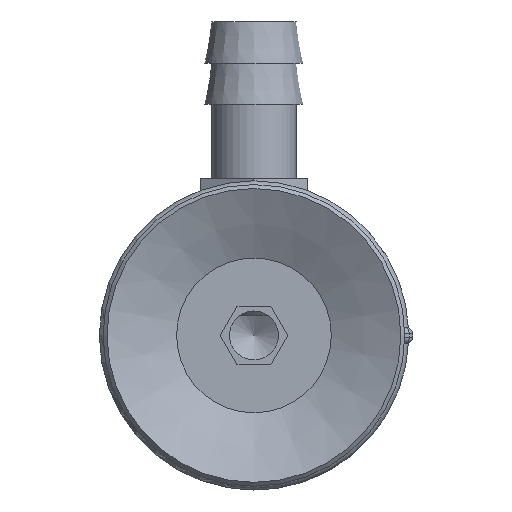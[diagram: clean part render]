
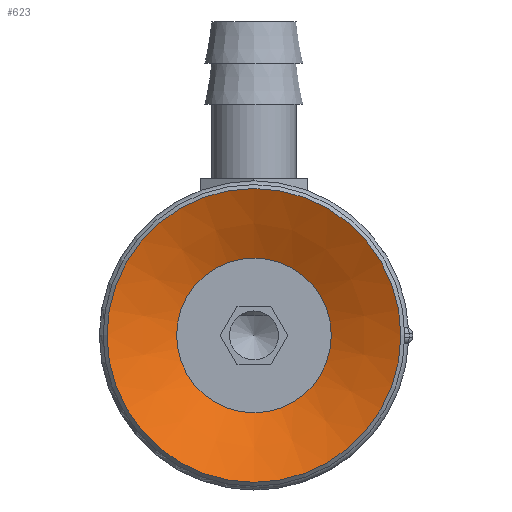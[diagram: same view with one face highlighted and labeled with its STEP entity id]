
A CAD part, front view. The second image highlights one B-rep face of the part: STEP entity #623.
In plain terms, the highlighted conical face has half-angle 64 degrees and reference radius 3.95 mm.
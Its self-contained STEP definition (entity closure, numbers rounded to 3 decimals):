
#623=ADVANCED_FACE('',(#933,#934),#935,.F.);
#933=FACE_BOUND('',#1355,.T.);
#934=FACE_OUTER_BOUND('',#1356,.T.);
#935=CONICAL_SURFACE('',#1357,3.95,1.117);
#1355=EDGE_LOOP('',(#2313));
#1356=EDGE_LOOP('',(#2314));
#1357=AXIS2_PLACEMENT_3D('',#2315,#2316,#2317);
#2313=ORIENTED_EDGE('',*,*,#2827,.F.);
#2314=ORIENTED_EDGE('',*,*,#2828,.T.);
#2315=CARTESIAN_POINT('',(0.0,-29.404,-47.168));
#2316=DIRECTION('',(-0.0,0.,1.0));
#2317=DIRECTION('',(0.0,-1.0,0.));
#2827=EDGE_CURVE('',#3277,#3277,#3278,.T.);
#2828=EDGE_CURVE('',#3279,#3279,#3280,.T.);
#3277=VERTEX_POINT('',#4377);
#3278=CIRCLE('',#4378,3.95);
#3279=VERTEX_POINT('',#4379);
#3280=CIRCLE('',#4380,7.5);
#4377=CARTESIAN_POINT('',(0.0,-33.354,-47.168));
#4378=AXIS2_PLACEMENT_3D('',#4856,#4857,#4858);
#4379=CARTESIAN_POINT('',(0.0,-36.904,-45.437));
#4380=AXIS2_PLACEMENT_3D('',#4859,#4860,#4861);
#4856=CARTESIAN_POINT('',(0.0,-29.404,-47.168));
#4857=DIRECTION('',(0.0,0.,1.0));
#4858=DIRECTION('',(0.0,-1.0,0.));
#4859=CARTESIAN_POINT('',(0.0,-29.404,-45.437));
#4860=DIRECTION('',(0.0,0.,1.0));
#4861=DIRECTION('',(0.0,-1.0,0.));
